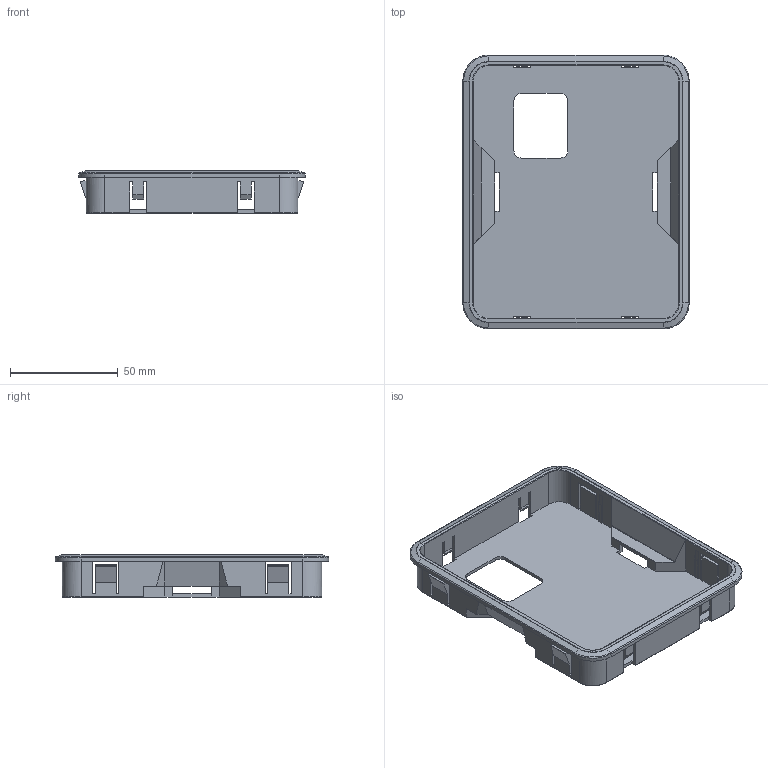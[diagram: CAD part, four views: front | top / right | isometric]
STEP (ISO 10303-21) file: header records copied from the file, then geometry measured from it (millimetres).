
FILE_DESCRIPTION (( 'STEP AP203' ), '1' );
FILE_NAME ('Ðàìêà ìîíòàæíàÿ _ SBIP-MF.STEP', '2025-03-17T13:51:13', ( '' ), ( '' ), 'SwSTEP 2.0', 'SolidWorks 2021', '' );
FILE_SCHEMA (( 'CONFIG_CONTROL_DESIGN' ));
Length unit declared in the file: millimetre
Products named in the file (1): Ðàìêà ìîíòàæíàÿ _ SBIP-MF
Bounding box: 105 x 127 x 19.5 mm (x, y, z)
Volume: 31609.9 mm3; surface area: 39809 mm2
Topology: 1 solids, 1 shells, 232 faces, 700 edges, 452 vertices
Faces by surface type: plane 156, cylinder 48, bspline 28
Entity records: 9713 total; most frequent: CARTESIAN_POINT 3473, ORIENTED_EDGE 1400, DIRECTION 1146, EDGE_CURVE 700, VECTOR 568, LINE 568, VERTEX_POINT 452, AXIS2_PLACEMENT_3D 289
